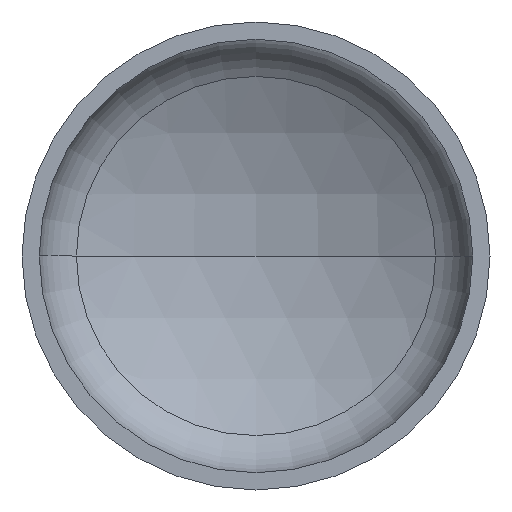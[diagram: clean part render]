
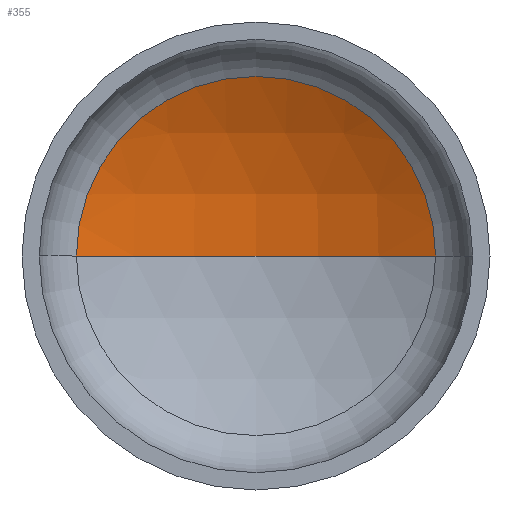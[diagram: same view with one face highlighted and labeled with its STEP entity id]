
A CAD part, front view. The second image highlights one B-rep face of the part: STEP entity #355.
In plain terms, the highlighted spherical face has radius 325 mm.
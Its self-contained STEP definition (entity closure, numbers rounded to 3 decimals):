
#2 = AXIS2_PLACEMENT_3D ( 'NONE', #318, #157, #343 ) ;
#7 = AXIS2_PLACEMENT_3D ( 'NONE', #410, #271, #66 ) ;
#33 = VERTEX_POINT ( 'NONE', #102 ) ;
#35 = AXIS2_PLACEMENT_3D ( 'NONE', #196, #195, #189 ) ;
#53 = CARTESIAN_POINT ( 'NONE',  ( -155.951, 99.396, 0. ) ) ;
#66 = DIRECTION ( 'NONE',  ( -1., 0., 0. ) ) ;
#74 = ORIENTED_EDGE ( 'NONE', *, *, #93, .T. ) ;
#93 = EDGE_CURVE ( 'NONE', #33, #238, #377, .T. ) ;
#102 = CARTESIAN_POINT ( 'NONE',  ( 155.951, 99.396, 0. ) ) ;
#128 = CARTESIAN_POINT ( 'NONE',  ( 0., 139.257, 0. ) ) ;
#137 = VERTEX_POINT ( 'NONE', #128 ) ;
#155 = EDGE_LOOP ( 'NONE', ( #177, #161, #74 ) ) ;
#157 = DIRECTION ( 'NONE',  ( 0., 0., 1. ) ) ;
#161 = ORIENTED_EDGE ( 'NONE', *, *, #337, .T. ) ;
#177 = ORIENTED_EDGE ( 'NONE', *, *, #349, .F. ) ;
#189 = DIRECTION ( 'NONE',  ( 1., 0., 0. ) ) ;
#191 = DIRECTION ( 'NONE',  ( -1., 0., 0. ) ) ;
#195 = DIRECTION ( 'NONE',  ( 0., -1., 0. ) ) ;
#196 = CARTESIAN_POINT ( 'NONE',  ( 0., 99.396, 0. ) ) ;
#220 = CIRCLE ( 'NONE', #2, 325. ) ;
#238 = VERTEX_POINT ( 'NONE', #53 ) ;
#271 = DIRECTION ( 'NONE',  ( 0., 0., -1. ) ) ;
#294 = CARTESIAN_POINT ( 'NONE',  ( 0., -185.743, 0. ) ) ;
#318 = CARTESIAN_POINT ( 'NONE',  ( 0., -185.743, 0. ) ) ;
#333 = AXIS2_PLACEMENT_3D ( 'NONE', #294, #387, #191 ) ;
#336 = SPHERICAL_SURFACE ( 'NONE', #333, 325. ) ;
#337 = EDGE_CURVE ( 'NONE', #137, #33, #362, .T. ) ;
#343 = DIRECTION ( 'NONE',  ( 1., 0., 0. ) ) ;
#349 = EDGE_CURVE ( 'NONE', #137, #238, #220, .T. ) ;
#355 = ADVANCED_FACE ( 'NONE', ( #403 ), #336, .F. ) ;
#362 = CIRCLE ( 'NONE', #7, 325. ) ;
#377 = CIRCLE ( 'NONE', #35, 155.951 ) ;
#387 = DIRECTION ( 'NONE',  ( 0., 0., -1. ) ) ;
#403 = FACE_OUTER_BOUND ( 'NONE', #155, .T. ) ;
#410 = CARTESIAN_POINT ( 'NONE',  ( 0., -185.743, 0. ) ) ;
